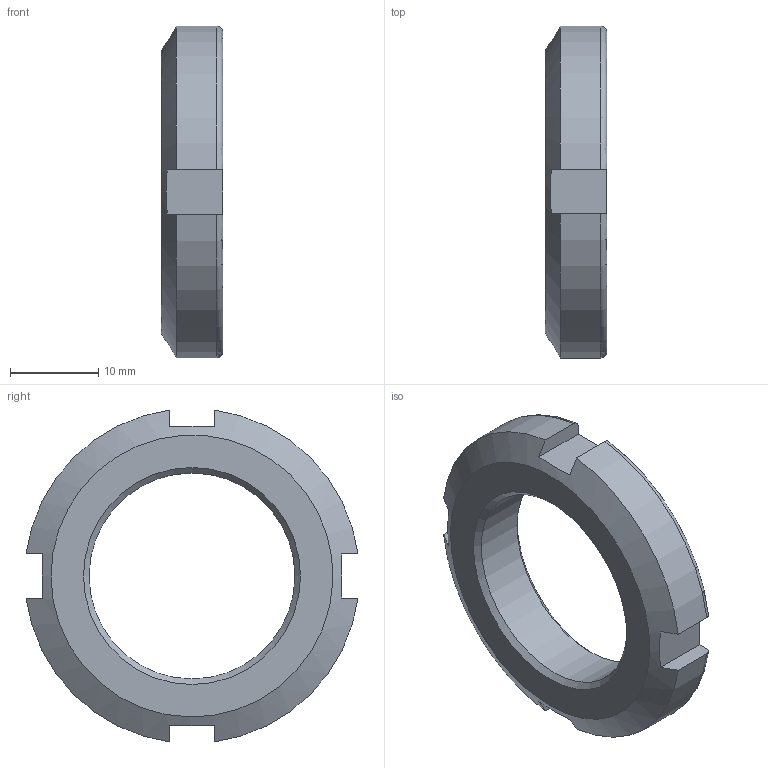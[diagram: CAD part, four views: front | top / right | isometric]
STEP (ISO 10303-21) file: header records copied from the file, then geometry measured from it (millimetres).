
FILE_DESCRIPTION(/* description */ ('Locknuts and locking devices-Dimensions - Locknuts(4 slots)'),/* implementation_level */ '2;1');
FILE_NAME(/* name */ 'D:\lock nut\LOCK NUT ISO 2982-2 - M25 x 1,5 x 32.stp',/* time_stamp */ '2022-04-01T13:48:19+07:00',/* author */ ('USER'),/* organization */ (''),/* preprocessor_version */ 'ST-DEVELOPER v16.1',/* originating_system */ 'Autodesk Inventor 2016',/* authorisation */ '');
FILE_SCHEMA (('AUTOMOTIVE_DESIGN { 1 0 10303 214 3 1 1 }'));
Length unit declared in the file: millimetre
Products named in the file (1): LOCK NUT ISO 2982-2 - M25 x 1,5 x 32
Bounding box: 7 x 37.67 x 37.67 mm (x, y, z)
Volume: 4374.5 mm3; surface area: 2543.5 mm2
Topology: 1 solids, 1 shells, 26 faces, 72 edges, 48 vertices
Faces by surface type: plane 14, cylinder 5, torus 4, cone 3
Full cylindrical faces by diameter (mm): 23.376 x1
Entity records: 858 total; most frequent: CARTESIAN_POINT 233, ORIENTED_EDGE 130, DIRECTION 116, EDGE_CURVE 65, VERTEX_POINT 45, AXIS2_PLACEMENT_3D 44, EDGE_LOOP 32, LINE 28
